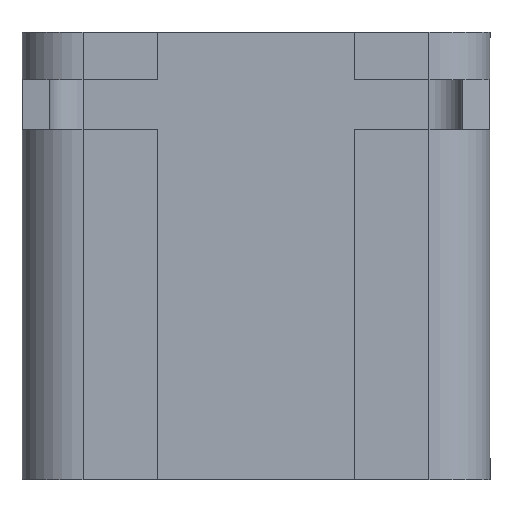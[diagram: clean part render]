
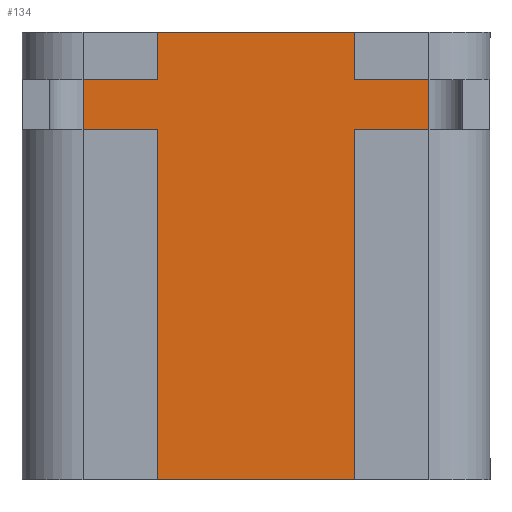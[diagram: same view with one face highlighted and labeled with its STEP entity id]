
A CAD part, front view. The second image highlights one B-rep face of the part: STEP entity #134.
In plain terms, the highlighted planar face has unit normal (0, -1, 0).
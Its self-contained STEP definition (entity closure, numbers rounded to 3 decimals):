
#4 = CARTESIAN_POINT ( 'NONE',  ( -1.1, 2.58, 0. ) ) ;
#31 = ORIENTED_EDGE ( 'NONE', *, *, #648, .T. ) ;
#49 = DIRECTION ( 'NONE',  ( 0., 0., 1. ) ) ;
#84 = AXIS2_PLACEMENT_3D ( 'NONE', #1398, #1510, #1243 ) ;
#112 = ORIENTED_EDGE ( 'NONE', *, *, #686, .F. ) ;
#120 = DIRECTION ( 'NONE',  ( 1., 0., 0. ) ) ;
#127 = PLANE ( 'NONE',  #84 ) ;
#134 = ADVANCED_FACE ( 'NONE', ( #887 ), #127, .T. ) ;
#151 = EDGE_CURVE ( 'NONE', #806, #955, #740, .T. ) ;
#482 = ORIENTED_EDGE ( 'NONE', *, *, #681, .F. ) ;
#558 = CARTESIAN_POINT ( 'NONE',  ( 4., 2.58, -6.6 ) ) ;
#648 = EDGE_CURVE ( 'NONE', #955, #1217, #1846, .T. ) ;
#681 = EDGE_CURVE ( 'NONE', #806, #1205, #1859, .T. ) ;
#686 = EDGE_CURVE ( 'NONE', #1205, #1217, #1394, .T. ) ;
#694 = CARTESIAN_POINT ( 'NONE',  ( 4., 2.58, 0. ) ) ;
#705 = VECTOR ( 'NONE', #49, 1000. ) ;
#740 = LINE ( 'NONE', #1687, #984 ) ;
#806 = VERTEX_POINT ( 'NONE', #1612 ) ;
#887 = FACE_OUTER_BOUND ( 'NONE', #1804, .T. ) ;
#892 = VECTOR ( 'NONE', #1193, 1000. ) ;
#955 = VERTEX_POINT ( 'NONE', #558 ) ;
#984 = VECTOR ( 'NONE', #120, 1000. ) ;
#1086 = CARTESIAN_POINT ( 'NONE',  ( -2., 2.58, 0. ) ) ;
#1106 = VECTOR ( 'NONE', #1579, 1000. ) ;
#1124 = CARTESIAN_POINT ( 'NONE',  ( -1.1, 2.58, -6.6 ) ) ;
#1193 = DIRECTION ( 'NONE',  ( 0., 0., 1. ) ) ;
#1205 = VERTEX_POINT ( 'NONE', #4 ) ;
#1217 = VERTEX_POINT ( 'NONE', #694 ) ;
#1243 = DIRECTION ( 'NONE',  ( 0., 0., -1. ) ) ;
#1394 = LINE ( 'NONE', #1086, #1106 ) ;
#1398 = CARTESIAN_POINT ( 'NONE',  ( -2., 2.58, -6.6 ) ) ;
#1510 = DIRECTION ( 'NONE',  ( 0., -1., 0. ) ) ;
#1579 = DIRECTION ( 'NONE',  ( 1., 0., 0. ) ) ;
#1612 = CARTESIAN_POINT ( 'NONE',  ( -1.1, 2.58, -6.6 ) ) ;
#1687 = CARTESIAN_POINT ( 'NONE',  ( -2., 2.58, -6.6 ) ) ;
#1793 = ORIENTED_EDGE ( 'NONE', *, *, #151, .T. ) ;
#1804 = EDGE_LOOP ( 'NONE', ( #112, #482, #1793, #31 ) ) ;
#1846 = LINE ( 'NONE', #1969, #892 ) ;
#1859 = LINE ( 'NONE', #1124, #705 ) ;
#1969 = CARTESIAN_POINT ( 'NONE',  ( 4., 2.58, -6.6 ) ) ;
